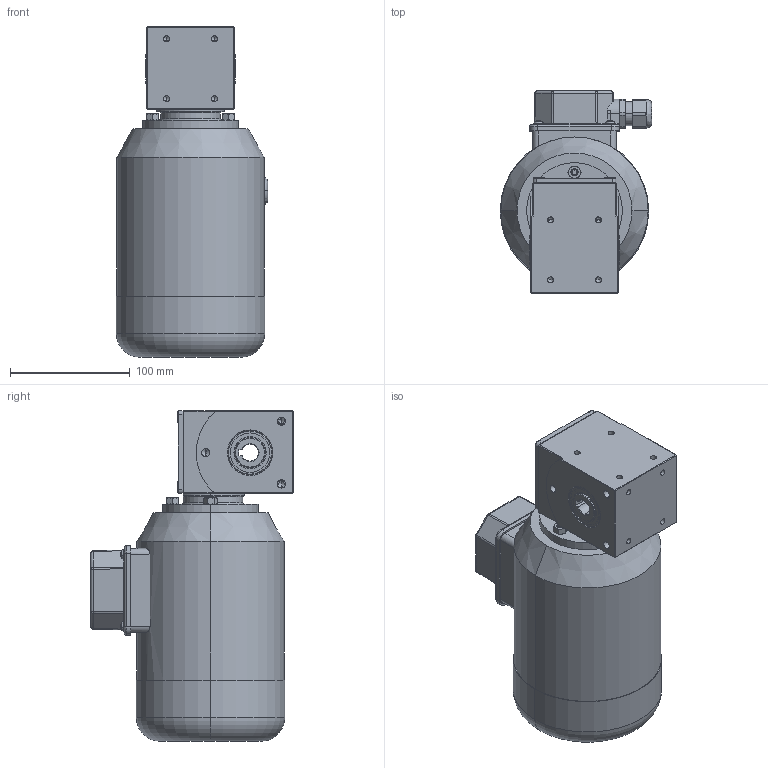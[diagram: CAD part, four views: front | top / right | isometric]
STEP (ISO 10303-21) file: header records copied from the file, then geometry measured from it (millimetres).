
FILE_DESCRIPTION (( 'STEP AP214' ), '1' );
FILE_NAME ('SN14H_180W_Drehstrom-Motor_D.STEP', '2022-08-01T09:05:21', ( '' ), ( '' ), 'SwSTEP 2.0', 'SolidWorks 2021', '' );
FILE_SCHEMA (( 'AUTOMOTIVE_DESIGN' ));
Length unit declared in the file: millimetre
Products named in the file (10): 03-M-269 I 180W_1400Upm; socket set screw flat point_iso_ISO 4026 - M6 x 20-C; hexa csunk flathd screw_iso_ISO 14581 M5x12x12-C; 03BH-W-002_3D-Export; hex nut style 1 gradeab_iso_ISO - 4032 - M6 - D - C; 04B-D-003; 14H-G-001_3D-Export; SN14H_180W_Drehstrom-Motor_D; SN14H_3D-Export; NBR_WDR_25x37x7
Assembly tree (17 placements, depth 3):
  SN14H_180W_Drehstrom-Motor_D
    SN14H_3D-Export
      14H-G-001_3D-Export
      04B-D-003
      03BH-W-002_3D-Export
      NBR_WDR_25x37x7  x2
      hexa csunk flathd screw_iso_ISO 14581 M5x12x12-C  x4
      socket set screw flat point_iso_ISO 4026 - M6 x 20-C  x3
      hex nut style 1 gradeab_iso_ISO - 4032 - M6 - D - C  x3
    03-M-269 I 180W_1400Upm
Bounding box: 126.5 x 169 x 276 mm (x, y, z)
Volume: 2767494 mm3; surface area: 216472.9 mm2
Topology: 18 solids, 18 shells, 919 faces, 2369 edges, 1468 vertices
Faces by surface type: cylinder 301, plane 284, cone 232, bspline 95, torus 7
Entity records: 25480 total; most frequent: CARTESIAN_POINT 8123, ORIENTED_EDGE 3714, DIRECTION 3195, EDGE_CURVE 1857, VERTEX_POINT 1190, AXIS2_PLACEMENT_3D 1190, VECTOR 815, LINE 815
